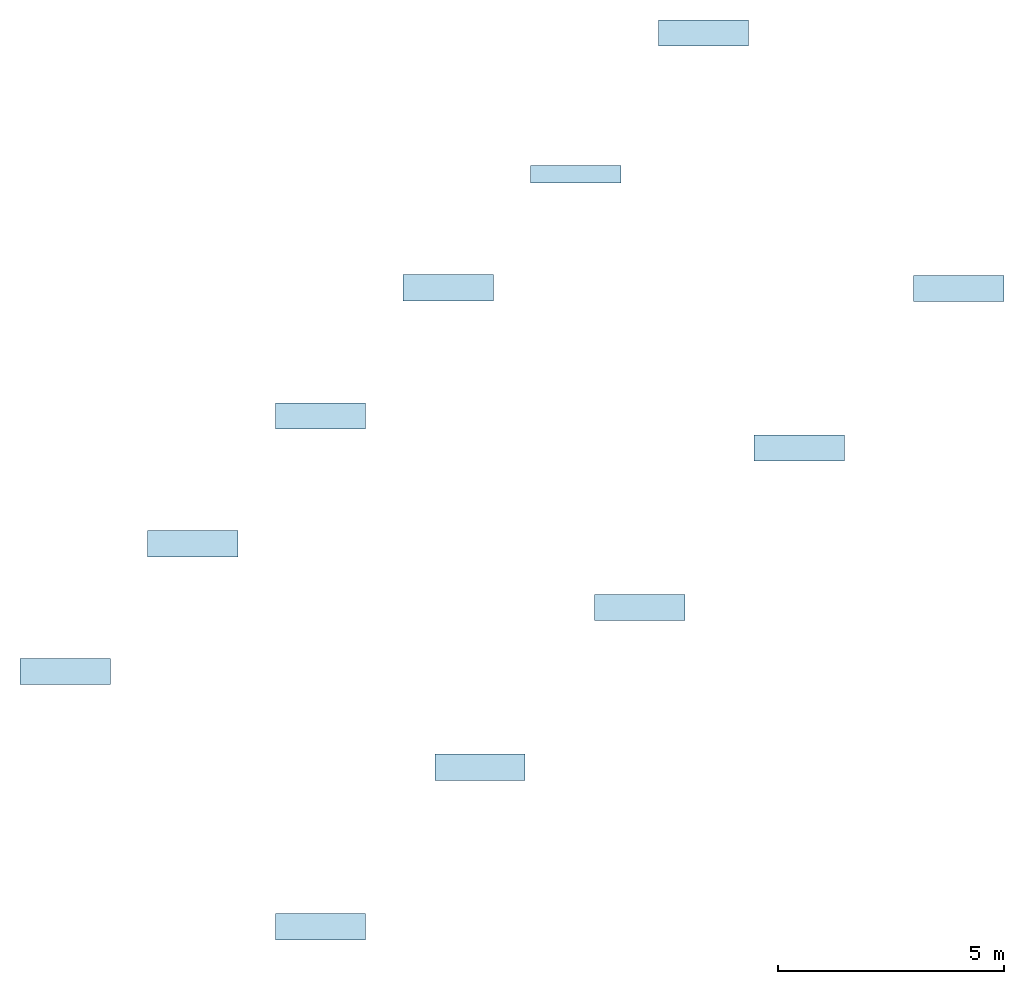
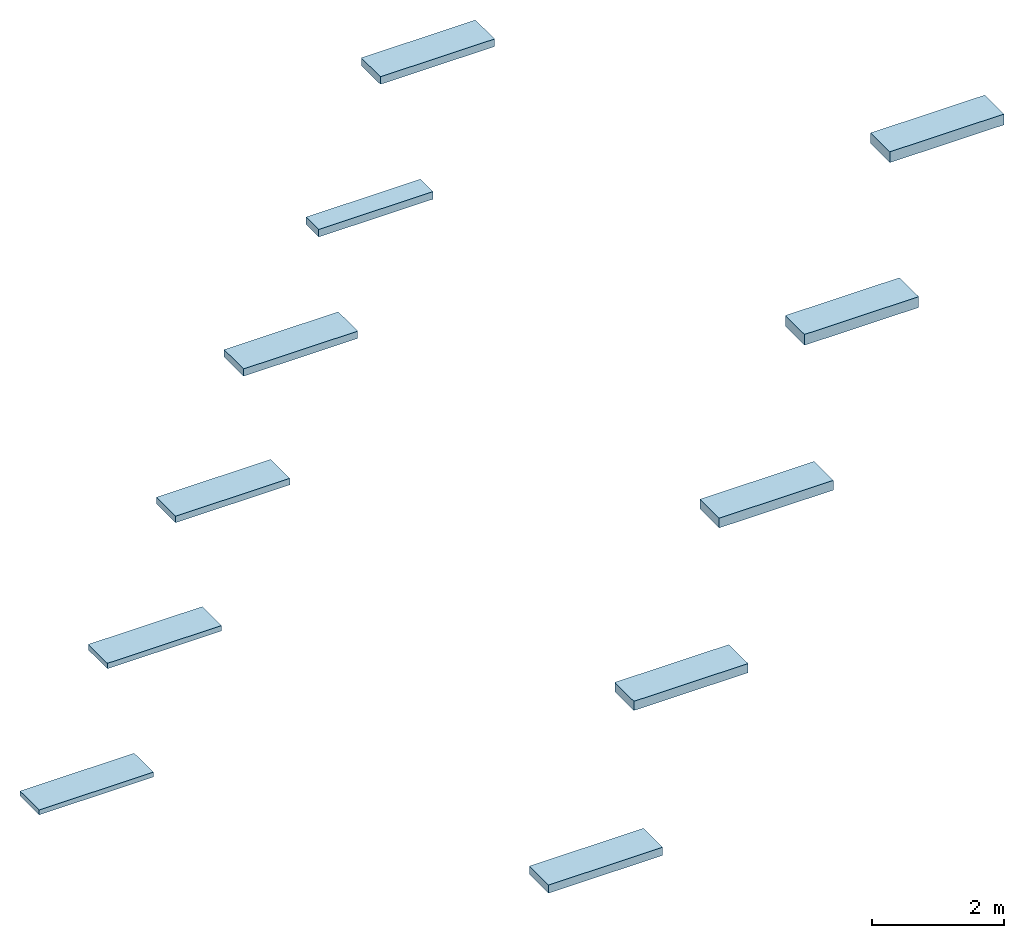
# One storey: 11 slabs, 11 elements without a shape of their own.
"""IFC2X3 building model written with IfcOpenShell, lengths in millimetres."""

from ifc_helpers import new_model, entity, si_unit, converted_unit, derived_unit, direction, frame, frame_2d, origin, origin_2d_with_axis, place, context, subcontext, project, spatial, rectangle, extrude, material, layer, layer_set, element, aggregate, save


model = new_model("IFC2X3")

# Units and contexts
model_context = context("Model", 3, precision=0.01, world=origin(), true_north=direction((6.12303176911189e-17, 1.0)))
context_of_model = context(None, 3, precision=0.01, world=origin(), true_north=direction((6.12303176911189e-17, 1.0)))
body_context = subcontext(model_context, "Body", "Model", "MODEL_VIEW")
ifc_project = project(units=[si_unit("LENGTHUNIT", "METRE", prefix="MILLI"), si_unit("AREAUNIT", "SQUARE_METRE"), si_unit("VOLUMEUNIT", "CUBIC_METRE"), converted_unit("PLANEANGLEUNIT", "DEGREE", entity("IfcRatioMeasure", 0.0174532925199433), si_unit("PLANEANGLEUNIT", "RADIAN"), dimensions=[0, 0, 0, 0, 0, 0, 0]), si_unit("MASSUNIT", "GRAM", prefix="KILO"), derived_unit("MASSDENSITYUNIT", [(si_unit("MASSUNIT", "GRAM", prefix="KILO"), 1), (si_unit("LENGTHUNIT", "METRE"), -3)]), si_unit("TIMEUNIT", "SECOND"), si_unit("FREQUENCYUNIT", "HERTZ"), si_unit("THERMODYNAMICTEMPERATUREUNIT", "DEGREE_CELSIUS"), derived_unit("THERMALTRANSMITTANCEUNIT", [(si_unit("MASSUNIT", "GRAM", prefix="KILO"), 1), (si_unit("THERMODYNAMICTEMPERATUREUNIT", "KELVIN"), -1), (si_unit("TIMEUNIT", "SECOND"), -3)]), derived_unit("VOLUMETRICFLOWRATEUNIT", [(si_unit("LENGTHUNIT", "METRE"), 3), (si_unit("TIMEUNIT", "SECOND"), -1)]), si_unit("ELECTRICCURRENTUNIT", "AMPERE"), si_unit("ELECTRICVOLTAGEUNIT", "VOLT"), si_unit("POWERUNIT", "WATT"), si_unit("FORCEUNIT", "NEWTON", prefix="KILO"), si_unit("ILLUMINANCEUNIT", "LUX"), si_unit("LUMINOUSFLUXUNIT", "LUMEN"), si_unit("LUMINOUSINTENSITYUNIT", "CANDELA"), derived_unit("USERDEFINED", [(si_unit("MASSUNIT", "GRAM", prefix="KILO"), -1), (si_unit("LENGTHUNIT", "METRE"), -2), (si_unit("TIMEUNIT", "SECOND"), 3), (si_unit("LUMINOUSFLUXUNIT", "LUMEN"), 1)]), derived_unit("LINEARVELOCITYUNIT", [(si_unit("LENGTHUNIT", "METRE"), 1), (si_unit("TIMEUNIT", "SECOND"), -1)]), si_unit("PRESSUREUNIT", "PASCAL"), derived_unit("USERDEFINED", [(si_unit("LENGTHUNIT", "METRE"), -2), (si_unit("MASSUNIT", "GRAM", prefix="KILO"), 1), (si_unit("TIMEUNIT", "SECOND"), -2)])], contexts=[model_context, context_of_model])

# Site, building, storey
site_placement = place(None, origin())
site = spatial("IfcSite", under=ifc_project, at=site_placement, Name="Default", CompositionType="ELEMENT")
building_placement = place(site_placement, origin())
building = spatial("IfcBuilding", under=site, at=building_placement, CompositionType="ELEMENT")
storey_placement = place(building_placement, frame((0.0, 0.0, 2000.0)))
storey = spatial("IfcBuildingStorey", under=building, at=storey_placement, Name="Lengte", CompositionType="ELEMENT", Elevation=2000.0)

# Roof, slab
roof_1_placement = place(storey_placement, frame((-3086.12151122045, -5124.3198354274, 0.0)))
roof_1 = element("IfcRoof", 1, at=roof_1_placement, inside=storey, Name="Basic Roof:NLRS_27_RO_Naturoll 032_90x580x3500mm", ObjectType="Basic Roof:NLRS_27_RO_Naturoll 032_90x580x3500mm", ShapeType="NOTDEFINED")
ifc_material = material(Name="Knauf Insulation_Ecose® glaswol_naturoll 032")
ifc_layer_1 = layer(ifc_material, 90.0)
ifc_layer_set_1 = layer_set([ifc_layer_1], Name="Basic Roof:NLRS_27_RO_Naturoll 032_90x580x3500mm")
slab_1_placement = place(roof_1_placement, origin())
slab_1 = element("IfcSlab", 2, at=slab_1_placement, material=ifc_layer_set_1, Name="Basic Roof:NLRS_27_RO_Naturoll 032_90x580x3500mm", ObjectType="Basic Roof:NLRS_27_RO_Naturoll 032_90x580x3500mm", PredefinedType="ROOF", context=body_context, shape_type="SweptSolid", body=[
    extrude(rectangle(XDim=2000.0, YDim=580.0, at=origin_2d_with_axis()), frame((1000.0, 290.0, 0.0)), (0.0, 0.0, 1.0), 90.0000000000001),
])
aggregate(roof_1, [slab_1])

roof_2_placement = place(storey_placement, frame((-257.694386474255, -2295.89271068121, 0.0)))
roof_2 = element("IfcRoof", 3, at=roof_2_placement, inside=storey, Name="Basic Roof:NLRS_27_RO_Naturoll 032_100x580x2700mm", ObjectType="Basic Roof:NLRS_27_RO_Naturoll 032_100x580x2700mm", ShapeType="NOTDEFINED")
ifc_layer_2 = layer(ifc_material, 100.0)
ifc_layer_set_2 = layer_set([ifc_layer_2], Name="Basic Roof:NLRS_27_RO_Naturoll 032_100x580x2700mm")
slab_2_placement = place(roof_2_placement, origin())
slab_2 = element("IfcSlab", 4, at=slab_2_placement, material=ifc_layer_set_2, Name="Basic Roof:NLRS_27_RO_Naturoll 032_100x580x2700mm", ObjectType="Basic Roof:NLRS_27_RO_Naturoll 032_100x580x2700mm", PredefinedType="ROOF", context=body_context, shape_type="SweptSolid", body=[
    extrude(rectangle(XDim=2000.0, YDim=580.0, at=origin_2d_with_axis()), frame((1000.0, 290.0, 0.0)), (0.0, 0.0, 1.0), 100.0),
])
aggregate(roof_2, [slab_2])

roof_3_placement = place(storey_placement, frame((2570.73273827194, 532.534414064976, 0.0)))
roof_3 = element("IfcRoof", 5, at=roof_3_placement, inside=storey, Name="Basic Roof:NLRS_27_RO_Naturoll 032_120x580x2700mm", ObjectType="Basic Roof:NLRS_27_RO_Naturoll 032_120x580x2700mm", ShapeType="NOTDEFINED")
ifc_layer_3 = layer(ifc_material, 120.0)
ifc_layer_set_3 = layer_set([ifc_layer_3], Name="Basic Roof:NLRS_27_RO_Naturoll 032_120x580x2700mm")
slab_3_placement = place(roof_3_placement, origin())
slab_3 = element("IfcSlab", 6, at=slab_3_placement, material=ifc_layer_set_3, Name="Basic Roof:NLRS_27_RO_Naturoll 032_120x580x2700mm", ObjectType="Basic Roof:NLRS_27_RO_Naturoll 032_120x580x2700mm", PredefinedType="ROOF", context=body_context, shape_type="SweptSolid", body=[
    extrude(rectangle(XDim=2000.0, YDim=580.0, at=origin_2d_with_axis()), frame((1000.0, 290.0, 0.0)), (0.0, 0.0, 1.0), 120.0),
])
aggregate(roof_3, [slab_3])

roof_4_placement = place(storey_placement, frame((5399.15986301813, 3370.96153881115, 0.0)))
roof_4 = element("IfcRoof", 7, at=roof_4_placement, inside=storey, Name="Basic Roof:NLRS_27_RO_Naturoll 032_135x590x2700mm", ObjectType="Basic Roof:NLRS_27_RO_Naturoll 032_135x590x2700mm", ShapeType="NOTDEFINED")
ifc_layer_4 = layer(ifc_material, 135.0)
ifc_layer_set_4 = layer_set([ifc_layer_4], Name="Basic Roof:NLRS_27_RO_Naturoll 032_135x590x2700mm")
slab_4_placement = place(roof_4_placement, origin())
slab_4 = element("IfcSlab", 8, at=slab_4_placement, material=ifc_layer_set_4, Name="Basic Roof:NLRS_27_RO_Naturoll 032_135x590x2700mm", ObjectType="Basic Roof:NLRS_27_RO_Naturoll 032_135x590x2700mm", PredefinedType="ROOF", context=body_context, shape_type="SweptSolid", body=[
    extrude(rectangle(XDim=2000.0, YDim=590.0, at=frame_2d((5.6843418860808e-13, 0.0), x_axis=(1.0, 0.0))), frame((1000.0, 295.0, 0.0)), (0.0, 0.0, 1.0), 135.0),
])
aggregate(roof_4, [slab_4])

roof_5_placement = place(storey_placement, frame((8227.58698776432, 5989.38866355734, 0.0)))
roof_5 = element("IfcRoof", 9, at=roof_5_placement, inside=storey, Name="Basic Roof:NLRS_27_RO_Naturoll 032_140x380x2700mm", ObjectType="Basic Roof:NLRS_27_RO_Naturoll 032_140x380x2700mm", ShapeType="NOTDEFINED")
ifc_layer_5 = layer(ifc_material, 140.0)
ifc_layer_set_5 = layer_set([ifc_layer_5], Name="Basic Roof:NLRS_27_RO_Naturoll 032_140x380x2700mm")
slab_5_placement = place(roof_5_placement, origin())
slab_5 = element("IfcSlab", 10, at=slab_5_placement, material=ifc_layer_set_5, Name="Basic Roof:NLRS_27_RO_Naturoll 032_140x380x2700mm", ObjectType="Basic Roof:NLRS_27_RO_Naturoll 032_140x380x2700mm", PredefinedType="ROOF", context=body_context, shape_type="SweptSolid", body=[
    extrude(rectangle(XDim=2000.0, YDim=380.0, at=frame_2d((5.6843418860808e-13, 1.08002495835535e-12), x_axis=(1.0, 0.0))), frame((1000.0, 190.0, 0.0)), (0.0, 0.0, 1.0), 140.0),
])
aggregate(roof_5, [slab_5])

roof_6_placement = place(storey_placement, frame((11056.0141125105, 9017.81578830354, 0.0)))
roof_6 = element("IfcRoof", 11, at=roof_6_placement, inside=storey, Name="Basic Roof:NLRS_27_RO_Naturoll 032_140x580x2700mm", ObjectType="Basic Roof:NLRS_27_RO_Naturoll 032_140x580x2700mm", ShapeType="NOTDEFINED")
ifc_layer_6 = layer(ifc_material, 140.0)
ifc_layer_set_6 = layer_set([ifc_layer_6], Name="Basic Roof:NLRS_27_RO_Naturoll 032_140x580x2700mm")
slab_6_placement = place(roof_6_placement, origin())
slab_6 = element("IfcSlab", 12, at=slab_6_placement, material=ifc_layer_set_6, Name="Basic Roof:NLRS_27_RO_Naturoll 032_140x580x2700mm", ObjectType="Basic Roof:NLRS_27_RO_Naturoll 032_140x580x2700mm", PredefinedType="ROOF", context=body_context, shape_type="SweptSolid", body=[
    extrude(rectangle(XDim=2000.0, YDim=580.0, at=frame_2d((-1.08002495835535e-12, 0.0), x_axis=(1.0, 0.0))), frame((1000.0, 290.0, 0.0)), (0.0, 0.0, 1.0), 140.0),
])
aggregate(roof_6, [slab_6])

roof_7_placement = place(storey_placement, frame((2570.73273827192, -10781.1740849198, 0.0)))
roof_7 = element("IfcRoof", 13, at=roof_7_placement, inside=storey, Name="Basic Roof:NLRS_27_RO_Naturoll 032_150x580x2700mm", ObjectType="Basic Roof:NLRS_27_RO_Naturoll 032_150x580x2700mm", ShapeType="NOTDEFINED")
ifc_layer_7 = layer(ifc_material, 150.0)
ifc_layer_set_7 = layer_set([ifc_layer_7], Name="Basic Roof:NLRS_27_RO_Naturoll 032_150x580x2700mm")
slab_7_placement = place(roof_7_placement, origin())
slab_7 = element("IfcSlab", 14, at=slab_7_placement, material=ifc_layer_set_7, Name="Basic Roof:NLRS_27_RO_Naturoll 032_150x580x2700mm", ObjectType="Basic Roof:NLRS_27_RO_Naturoll 032_150x580x2700mm", PredefinedType="ROOF", context=body_context, shape_type="SweptSolid", body=[
    extrude(rectangle(XDim=2000.0, YDim=580.0, at=frame_2d((0.0, 1.08002495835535e-12), x_axis=(1.0, 0.0))), frame((1000.0, 290.0, 0.0)), (0.0, 0.0, 1.0), 150.0),
])
aggregate(roof_7, [slab_7])

roof_8_placement = place(storey_placement, frame((6106.26664420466, -7245.64017898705, 0.0)))
roof_8 = element("IfcRoof", 15, at=roof_8_placement, inside=storey, Name="Basic Roof:NLRS_27_RO_Naturoll 032_170x580x3500mm", ObjectType="Basic Roof:NLRS_27_RO_Naturoll 032_170x580x3500mm", ShapeType="NOTDEFINED")
ifc_layer_8 = layer(ifc_material, 170.0)
ifc_layer_set_8 = layer_set([ifc_layer_8], Name="Basic Roof:NLRS_27_RO_Naturoll 032_170x580x3500mm")
slab_8_placement = place(roof_8_placement, origin())
slab_8 = element("IfcSlab", 16, at=slab_8_placement, material=ifc_layer_set_8, Name="Basic Roof:NLRS_27_RO_Naturoll 032_170x580x3500mm", ObjectType="Basic Roof:NLRS_27_RO_Naturoll 032_170x580x3500mm", PredefinedType="ROOF", context=body_context, shape_type="SweptSolid", body=[
    extrude(rectangle(XDim=2000.0, YDim=580.0, at=frame_2d((-5.6843418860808e-13, 0.0), x_axis=(1.0, 0.0))), frame((1000.0, 290.0, 0.0)), (0.0, 0.0, 1.0), 170.0),
])
aggregate(roof_8, [slab_8])

roof_9_placement = place(storey_placement, frame((9641.8005501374, -3710.10627305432, 0.0)))
roof_9 = element("IfcRoof", 17, at=roof_9_placement, inside=storey, Name="Basic Roof:NLRS_27_RO_Naturoll 032_180x580x2200mm", ObjectType="Basic Roof:NLRS_27_RO_Naturoll 032_180x580x2200mm", ShapeType="NOTDEFINED")
ifc_layer_9 = layer(ifc_material, 180.0)
ifc_layer_set_9 = layer_set([ifc_layer_9], Name="Basic Roof:NLRS_27_RO_Naturoll 032_180x580x2200mm")
slab_9_placement = place(roof_9_placement, origin())
slab_9 = element("IfcSlab", 18, at=slab_9_placement, material=ifc_layer_set_9, Name="Basic Roof:NLRS_27_RO_Naturoll 032_180x580x2200mm", ObjectType="Basic Roof:NLRS_27_RO_Naturoll 032_180x580x2200mm", PredefinedType="ROOF", context=body_context, shape_type="SweptSolid", body=[
    extrude(rectangle(XDim=2000.0, YDim=580.0, at=frame_2d((5.6843418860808e-13, 0.0), x_axis=(1.0, 0.0))), frame((1000.0, 290.0, 0.0)), (0.0, 0.0, 1.0), 180.0),
])
aggregate(roof_9, [slab_9])

roof_10_placement = place(storey_placement, frame((13177.3344560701, -174.572367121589, 0.0)))
roof_10 = element("IfcRoof", 19, at=roof_10_placement, inside=storey, Name="Basic Roof:NLRS_27_RO_Naturoll 032_200x580x2000mm", ObjectType="Basic Roof:NLRS_27_RO_Naturoll 032_200x580x2000mm", ShapeType="NOTDEFINED")
ifc_layer_10 = layer(ifc_material, 200.0)
ifc_layer_set_10 = layer_set([ifc_layer_10], Name="Basic Roof:NLRS_27_RO_Naturoll 032_200x580x2000mm")
slab_10_placement = place(roof_10_placement, origin())
slab_10 = element("IfcSlab", 20, at=slab_10_placement, material=ifc_layer_set_10, Name="Basic Roof:NLRS_27_RO_Naturoll 032_200x580x2000mm", ObjectType="Basic Roof:NLRS_27_RO_Naturoll 032_200x580x2000mm", PredefinedType="ROOF", context=body_context, shape_type="SweptSolid", body=[
    extrude(rectangle(XDim=2000.0, YDim=580.0, at=frame_2d((-1.08002495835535e-12, 0.0), x_axis=(1.0, 0.0))), frame((1000.0, 290.0, 0.0)), (0.0, 0.0, 1.0), 200.0),
])
aggregate(roof_10, [slab_10])

roof_11_placement = place(storey_placement, frame((16712.8683620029, 3360.96153881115, 0.0)))
roof_11 = element("IfcRoof", 21, at=roof_11_placement, inside=storey, Name="Basic Roof:NLRS_27_RO_Naturoll 032_245x580x2000mm", ObjectType="Basic Roof:NLRS_27_RO_Naturoll 032_245x580x2000mm", ShapeType="NOTDEFINED")
ifc_layer_11 = layer(ifc_material, 200.0)
ifc_layer_set_11 = layer_set([ifc_layer_11], Name="Basic Roof:NLRS_27_RO_Naturoll 032_245x580x2000mm")
slab_11_placement = place(roof_11_placement, origin())
slab_11 = element("IfcSlab", 22, at=slab_11_placement, material=ifc_layer_set_11, Name="Basic Roof:NLRS_27_RO_Naturoll 032_245x580x2000mm", ObjectType="Basic Roof:NLRS_27_RO_Naturoll 032_245x580x2000mm", PredefinedType="ROOF", context=body_context, shape_type="SweptSolid", body=[
    extrude(rectangle(XDim=2000.0, YDim=580.0, at=frame_2d((-1.08002495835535e-12, 0.0), x_axis=(1.0, 0.0))), frame((1000.0, 290.0, 0.0)), (0.0, 0.0, 1.0), 200.0),
])
aggregate(roof_11, [slab_11])

save(model, "model.ifc")
